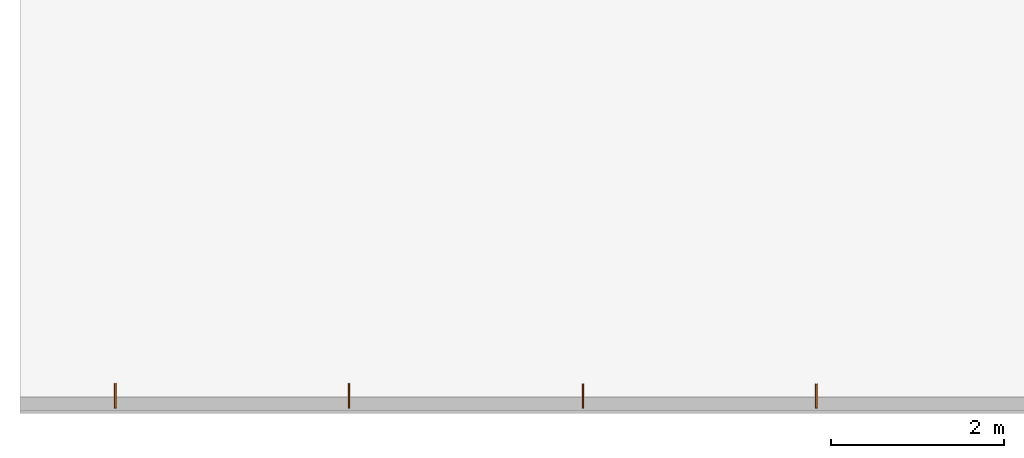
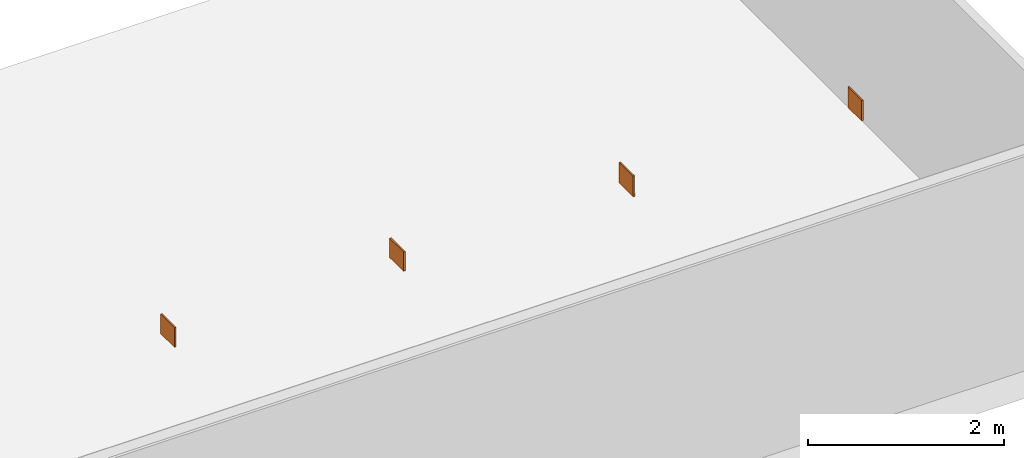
# One storey, part 2 of 2: 4 proxies.
"""IFC2X3 building model written with IfcOpenShell, lengths in millimetres."""

from ifc_helpers import new_model, entity, si_unit, converted_unit, derived_unit, direction, frame, origin, origin_with_axes, place, context, subcontext, project, spatial, faceted_brep, material, type_object, element, save


model = new_model("IFC2X3")

# Units and contexts
model_context = context("Model", 3, precision=0.01, world=origin(), true_north=direction((6.12303176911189e-17, 1.0)))
plan_context = context("Plan", 3, precision=1e-05, world=origin_with_axes())
body_context = subcontext(model_context, "Body", "Model", "MODEL_VIEW")
ifc_project = project(units=[converted_unit("PLANEANGLEUNIT", "DEGREE", entity("IfcPositiveLengthMeasure", 0.0174532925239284), si_unit("PLANEANGLEUNIT", "RADIAN"), dimensions=[0, 0, 0, 0, 0, 0, 0]), si_unit("AREAUNIT", "SQUARE_METRE"), si_unit("LENGTHUNIT", "METRE", prefix="MILLI"), si_unit("MASSUNIT", "GRAM", prefix="KILO"), si_unit("POWERUNIT", "WATT"), si_unit("PRESSUREUNIT", "PASCAL"), si_unit("FORCEUNIT", "NEWTON", prefix="KILO"), si_unit("ELECTRICVOLTAGEUNIT", "VOLT"), si_unit("ELECTRICCURRENTUNIT", "AMPERE"), si_unit("THERMODYNAMICTEMPERATUREUNIT", "DEGREE_CELSIUS"), si_unit("TIMEUNIT", "SECOND"), si_unit("VOLUMEUNIT", "CUBIC_METRE"), derived_unit("LINEARVELOCITYUNIT", [(si_unit("LENGTHUNIT", "METRE"), 1), (si_unit("TIMEUNIT", "SECOND"), -1)]), derived_unit("VOLUMETRICFLOWRATEUNIT", [(si_unit("VOLUMEUNIT", "CUBIC_METRE"), 1), (si_unit("TIMEUNIT", "SECOND"), -1)]), derived_unit("THERMALTRANSMITTANCEUNIT", [(si_unit("POWERUNIT", "WATT"), 1), (si_unit("THERMODYNAMICTEMPERATUREUNIT", "KELVIN"), -1), (si_unit("AREAUNIT", "SQUARE_METRE"), -1)]), derived_unit("SOUNDPRESSUREUNIT", [(si_unit("PRESSUREUNIT", "PASCAL"), 1)])], contexts=[model_context, plan_context])

# Site, building, storey
site_placement = place(None, frame((2314154.5009392, 1029894.10887124, 0.0), z_axis=(0.0, 0.0, 1.0), x_axis=(1.0, 0.0, 0.0)))
site = spatial("IfcSite", under=ifc_project, at=site_placement, Name="Default", CompositionType="ELEMENT")
building_placement = place(site_placement, origin_with_axes())
building = spatial("IfcBuilding", under=site, at=building_placement, CompositionType="ELEMENT")
storey_placement = place(building_placement, frame((0.0, 0.0, 15370.0), z_axis=(0.0, 0.0, 1.0), x_axis=(1.0, 0.0, 0.0)))
storey = spatial("IfcBuildingStorey", under=building, at=storey_placement, Name="XX - C +15,37 TA E2", CompositionType="ELEMENT", Elevation=15370.0)

# Proxies
ifc_material = material(Name="<Unnamed>")
building_element_proxy_type_1 = type_object("IfcBuildingElementProxyType", Name="V_TA Stål Facade Columns Type 5:V_TA Stål Facade Columns", PredefinedType="NOTDEFINED", material=ifc_material)
proxy_1_placement = place(storey_placement, frame((120260.33394735, -17967.6257103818, 4670.05647160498), z_axis=(0.0, -0.965278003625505, 0.261224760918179), x_axis=(0.0, -0.261224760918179, -0.965278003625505)))
element("IfcBuildingElementProxy", 1, at=proxy_1_placement, inside=storey, type_object=building_element_proxy_type_1, Name="V_TA Stål Facade Columns Type 5:V_TA Stål Facade Columns", ObjectType="V_TA Stål Facade Columns Type 5:V_TA Stål Facade Columns", context=body_context, shape_type="Brep", body=[
    faceted_brep([(778.096537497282, -10.0, 310.165852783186), (778.096537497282, 9.99999999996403, 310.165852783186), (1012.88141888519, 9.99999999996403, 247.255433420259), (1012.88141888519, -10.0, 247.255433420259), (939.377438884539, 9.99999999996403, -27.0651545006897), (939.377438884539, -10.0, -27.0651545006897), (703.909109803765, 9.99999999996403, 36.0283941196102), (703.909109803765, -10.0, 36.0283941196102)], [[[0, 1, 2, 3]], [[3, 2, 4, 5]], [[6, 7, 5, 4]], [[7, 0, 3, 5]], [[1, 6, 4, 2]], [[7, 6, 1, 0]]], orient=[[False], [False], [False], [False], [False], [False]]),
])
building_element_proxy_type_2 = type_object("IfcBuildingElementProxyType", Name="V_TA Stål Facade Columns Type 4:V_TA Stål Facade Columns", PredefinedType="NOTDEFINED", material=ifc_material)
proxy_2_placement = place(storey_placement, frame((122960.33394735, -17967.3187404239, 4671.19078730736), z_axis=(0.0, -0.965278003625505, 0.261224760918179), x_axis=(0.0, -0.261224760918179, -0.965278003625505)))
element("IfcBuildingElementProxy", 2, at=proxy_2_placement, inside=storey, type_object=building_element_proxy_type_2, Name="V_TA Stål Facade Columns Type 4:V_TA Stål Facade Columns", ObjectType="V_TA Stål Facade Columns Type 4:V_TA Stål Facade Columns", context=body_context, shape_type="Brep", body=[
    faceted_brep([(779.192205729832, -10.0, 309.872269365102), (779.192205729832, 9.99999999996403, 309.872269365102), (1012.88141888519, 9.99999999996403, 247.255433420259), (1012.88141888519, -10.0, 247.255433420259), (939.377438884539, 9.99999999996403, -27.0651545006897), (939.377438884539, -10.0, -27.0651545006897), (705.004778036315, 9.99999999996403, 35.734810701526), (705.004778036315, -10.0, 35.734810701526)], [[[0, 1, 2, 3]], [[3, 2, 4, 5]], [[6, 7, 5, 4]], [[7, 0, 3, 5]], [[1, 6, 4, 2]], [[7, 6, 1, 0]]], orient=[[False], [False], [False], [False], [False], [False]]),
])
building_element_proxy_type_3 = type_object("IfcBuildingElementProxyType", Name="V_TA Stål Facade Columns Type 4:V_TA Stål Facade Columns", PredefinedType="NOTDEFINED", material=ifc_material)
for number, where, z_axis, x_axis in (
    (3, (125662.379348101, -17971.1928735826, 4656.8750864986), (0.0, -0.965278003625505, 0.261224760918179), (0.0, -0.261224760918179, -0.965278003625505)),
    (4, (128357.379348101, -17971.1928735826, 4656.87508649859), (0.0, -0.965278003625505, 0.261224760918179), (0.0, -0.261224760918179, -0.965278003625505)),
):
    element("IfcBuildingElementProxy", number, at=place(storey_placement, frame(where, z_axis=z_axis, x_axis=x_axis)), inside=storey, type_object=building_element_proxy_type_3, Name="V_TA Stål Facade Columns Type 4:V_TA Stål Facade Columns", ObjectType="V_TA Stål Facade Columns Type 4:V_TA Stål Facade Columns", context=body_context, shape_type="Brep", body=[
        faceted_brep([(765.36425768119, -10.0, 313.577456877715), (765.36425768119, 9.99999999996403, 313.577456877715), (1012.88141888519, 9.99999999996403, 247.255433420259), (1012.88141888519, -10.0, 247.255433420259), (939.377438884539, 9.99999999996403, -27.0651545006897), (939.377438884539, -10.0, -27.0651545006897), (691.176829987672, 9.99999999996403, 39.4399982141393), (691.176829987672, -10.0, 39.4399982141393)], [[[0, 1, 2, 3]], [[3, 2, 4, 5]], [[6, 7, 5, 4]], [[7, 0, 3, 5]], [[1, 6, 4, 2]], [[7, 6, 1, 0]]], orient=[[False], [False], [False], [False], [False], [False]]),
    ])

save(model, "model.ifc")
